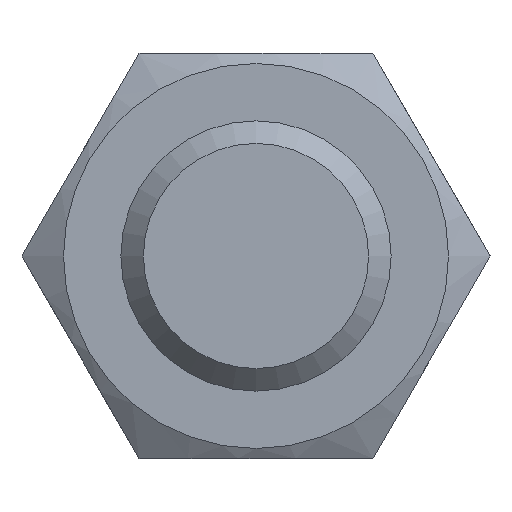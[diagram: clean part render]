
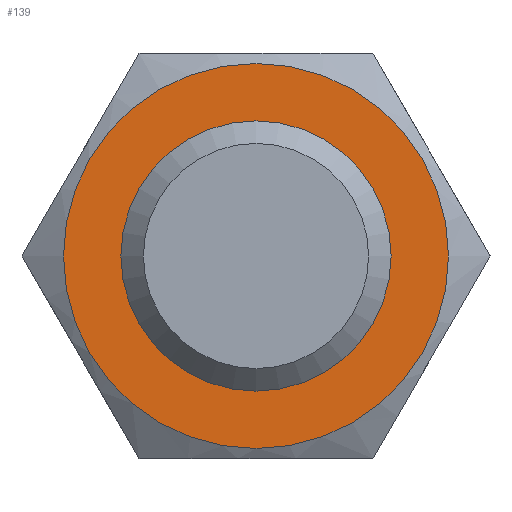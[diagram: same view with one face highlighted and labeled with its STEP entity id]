
A CAD part, left-side view. The second image highlights one B-rep face of the part: STEP entity #139.
In plain terms, the highlighted planar face has unit normal (-1, 0, 0) as drawn and (0, 0, 1) by its records, which use the part's own axes.
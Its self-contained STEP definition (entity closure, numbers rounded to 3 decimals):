
#139=ADVANCED_FACE('',(#366,#368),#370,.T.);
#366=FACE_BOUND('',#367,.T.);
#367=EDGE_LOOP('',(#491));
#368=FACE_BOUND('',#369,.T.);
#369=EDGE_LOOP('',(#492));
#370=PLANE('',#371);
#371=AXIS2_PLACEMENT_3D('',#372,#373,#374);
#372=CARTESIAN_POINT('',(0.,0.,10.8));
#373=DIRECTION('',(0.,0.,1.));
#374=DIRECTION('',(1.,0.,0.));
#491=ORIENTED_EDGE('',*,*,#547,.T.);
#492=ORIENTED_EDGE('',*,*,#548,.T.);
#547=EDGE_CURVE('',#637,#637,#638,.F.);
#548=EDGE_CURVE('',#639,#639,#640,.F.);
#637=VERTEX_POINT('',#1395);
#638=CIRCLE('',#1396,8.55);
#639=VERTEX_POINT('',#1400);
#640=CIRCLE('',#1401,6.);
#1395=CARTESIAN_POINT('',(0.,8.55,10.8));
#1396=AXIS2_PLACEMENT_3D('',#1397,#1398,#1399);
#1397=CARTESIAN_POINT('',(0.,0.,10.8));
#1398=DIRECTION('',(0.,0.,-1.));
#1399=DIRECTION('',(0.,1.,0.));
#1400=CARTESIAN_POINT('',(6.,0.,10.8));
#1401=AXIS2_PLACEMENT_3D('',#1402,#1403,#1404);
#1402=CARTESIAN_POINT('',(0.,0.,10.8));
#1403=DIRECTION('',(0.,0.,1.));
#1404=DIRECTION('',(1.,0.,0.));
